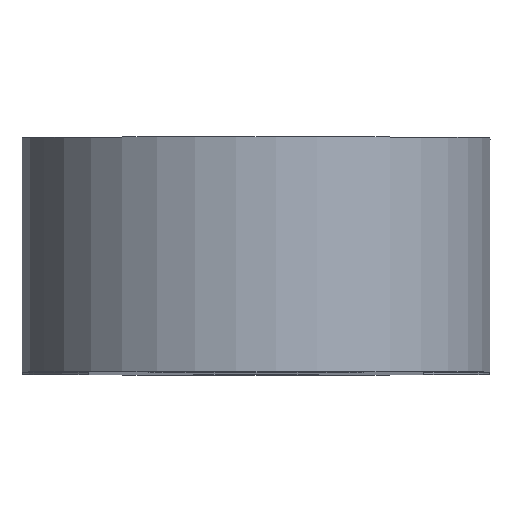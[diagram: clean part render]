
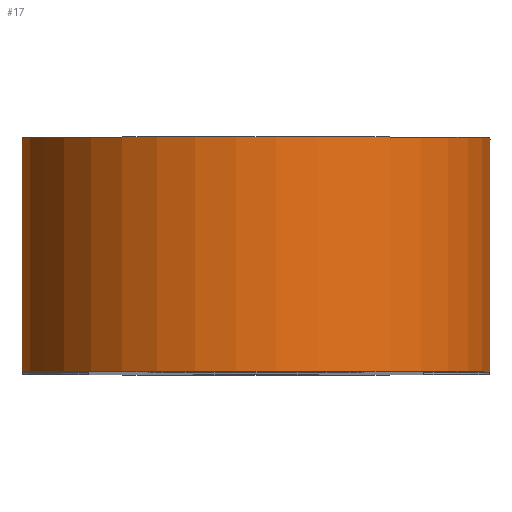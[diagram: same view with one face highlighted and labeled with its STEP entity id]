
A CAD part, top view. The second image highlights one B-rep face of the part: STEP entity #17.
In plain terms, the highlighted cylindrical face has radius 3.5 mm (diameter 7 mm), a partial arc.
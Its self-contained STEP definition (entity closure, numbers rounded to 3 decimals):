
#17 = ADVANCED_FACE('',(#18),#33,.T.);
#18 = FACE_BOUND('',#19,.F.);
#19 = EDGE_LOOP('',(#20,#56,#82,#115));
#20 = ORIENTED_EDGE('',*,*,#21,.F.);
#21 = EDGE_CURVE('',#22,#24,#26,.T.);
#22 = VERTEX_POINT('',#23);
#23 = CARTESIAN_POINT('',(-2.5,-1.75,-2.449));
#24 = VERTEX_POINT('',#25);
#25 = CARTESIAN_POINT('',(2.5,-1.75,-2.449));
#26 = SURFACE_CURVE('',#27,(#32,#44),.PCURVE_S1.);
#27 = CIRCLE('',#28,3.5);
#28 = AXIS2_PLACEMENT_3D('',#29,#30,#31);
#29 = CARTESIAN_POINT('',(0.,-1.75,0.));
#30 = DIRECTION('',(0.,1.,0.));
#31 = DIRECTION('',(-0.714,0.,-0.7));
#32 = PCURVE('',#33,#38);
#33 = CYLINDRICAL_SURFACE('',#34,3.5);
#34 = AXIS2_PLACEMENT_3D('',#35,#36,#37);
#35 = CARTESIAN_POINT('',(0.,-1.75,0.));
#36 = DIRECTION('',(0.,-1.,-0.));
#37 = DIRECTION('',(1.,0.,0.));
#38 = DEFINITIONAL_REPRESENTATION('',(#39),#43);
#39 = LINE('',#40,#41);
#40 = CARTESIAN_POINT('',(-2.366,0.));
#41 = VECTOR('',#42,1.);
#42 = DIRECTION('',(-1.,0.));
#43 = ( GEOMETRIC_REPRESENTATION_CONTEXT(2) 
PARAMETRIC_REPRESENTATION_CONTEXT() REPRESENTATION_CONTEXT('2D SPACE',''
  ) );
#44 = PCURVE('',#45,#50);
#45 = PLANE('',#46);
#46 = AXIS2_PLACEMENT_3D('',#47,#48,#49);
#47 = CARTESIAN_POINT('',(0.,-1.75,0.)
  );
#48 = DIRECTION('',(0.,1.,0.));
#49 = DIRECTION('',(0.,-0.,1.));
#50 = DEFINITIONAL_REPRESENTATION('',(#51),#55);
#51 = CIRCLE('',#52,3.5);
#52 = AXIS2_PLACEMENT_2D('',#53,#54);
#53 = CARTESIAN_POINT('',(0.,0.));
#54 = DIRECTION('',(-0.7,-0.714));
#55 = ( GEOMETRIC_REPRESENTATION_CONTEXT(2) 
PARAMETRIC_REPRESENTATION_CONTEXT() REPRESENTATION_CONTEXT('2D SPACE',''
  ) );
#56 = ORIENTED_EDGE('',*,*,#57,.F.);
#57 = EDGE_CURVE('',#58,#22,#60,.T.);
#58 = VERTEX_POINT('',#59);
#59 = CARTESIAN_POINT('',(-2.5,1.75,-2.449));
#60 = SURFACE_CURVE('',#61,(#65,#71),.PCURVE_S1.);
#61 = LINE('',#62,#63);
#62 = CARTESIAN_POINT('',(-2.5,-1.75,-2.449));
#63 = VECTOR('',#64,1.);
#64 = DIRECTION('',(0.,-1.,-0.));
#65 = PCURVE('',#33,#66);
#66 = DEFINITIONAL_REPRESENTATION('',(#67),#70);
#67 = B_SPLINE_CURVE_WITH_KNOTS('',1,(#68,#69),.UNSPECIFIED.,.F.,.F.,(2,
    2),(-3.5,0.),.PIECEWISE_BEZIER_KNOTS.);
#68 = CARTESIAN_POINT('',(-2.366,-3.5));
#69 = CARTESIAN_POINT('',(-2.366,0.));
#70 = ( GEOMETRIC_REPRESENTATION_CONTEXT(2) 
PARAMETRIC_REPRESENTATION_CONTEXT() REPRESENTATION_CONTEXT('2D SPACE',''
  ) );
#71 = PCURVE('',#72,#77);
#72 = PLANE('',#73);
#73 = AXIS2_PLACEMENT_3D('',#74,#75,#76);
#74 = CARTESIAN_POINT('',(-2.5,-1.75,-22.));
#75 = DIRECTION('',(1.,0.,0.));
#76 = DIRECTION('',(0.,0.,1.));
#77 = DEFINITIONAL_REPRESENTATION('',(#78),#81);
#78 = B_SPLINE_CURVE_WITH_KNOTS('',1,(#79,#80),.UNSPECIFIED.,.F.,.F.,(2,
    2),(-3.5,0.),.PIECEWISE_BEZIER_KNOTS.);
#79 = CARTESIAN_POINT('',(19.551,-3.5));
#80 = CARTESIAN_POINT('',(19.551,0.));
#81 = ( GEOMETRIC_REPRESENTATION_CONTEXT(2) 
PARAMETRIC_REPRESENTATION_CONTEXT() REPRESENTATION_CONTEXT('2D SPACE',''
  ) );
#82 = ORIENTED_EDGE('',*,*,#83,.F.);
#83 = EDGE_CURVE('',#84,#58,#86,.T.);
#84 = VERTEX_POINT('',#85);
#85 = CARTESIAN_POINT('',(2.5,1.75,-2.449));
#86 = SURFACE_CURVE('',#87,(#92,#99),.PCURVE_S1.);
#87 = CIRCLE('',#88,3.5);
#88 = AXIS2_PLACEMENT_3D('',#89,#90,#91);
#89 = CARTESIAN_POINT('',(0.,1.75,0.));
#90 = DIRECTION('',(0.,-1.,0.));
#91 = DIRECTION('',(0.714,0.,-0.7));
#92 = PCURVE('',#33,#93);
#93 = DEFINITIONAL_REPRESENTATION('',(#94),#98);
#94 = LINE('',#95,#96);
#95 = CARTESIAN_POINT('',(-7.058,-3.5));
#96 = VECTOR('',#97,1.);
#97 = DIRECTION('',(1.,-0.));
#98 = ( GEOMETRIC_REPRESENTATION_CONTEXT(2) 
PARAMETRIC_REPRESENTATION_CONTEXT() REPRESENTATION_CONTEXT('2D SPACE',''
  ) );
#99 = PCURVE('',#100,#105);
#100 = PLANE('',#101);
#101 = AXIS2_PLACEMENT_3D('',#102,#103,#104);
#102 = CARTESIAN_POINT('',(0.,1.75,0.)
  );
#103 = DIRECTION('',(0.,1.,0.));
#104 = DIRECTION('',(0.,-0.,1.));
#105 = DEFINITIONAL_REPRESENTATION('',(#106),#114);
#106 = ( BOUNDED_CURVE() B_SPLINE_CURVE(2,(#107,#108,#109,#110,#111,#112
,#113),.UNSPECIFIED.,.T.,.F.) B_SPLINE_CURVE_WITH_KNOTS((1,2,2,2,2,1),(
    -2.094,0.,2.094,4.189,6.283,
8.378),.UNSPECIFIED.) CURVE() GEOMETRIC_REPRESENTATION_ITEM() 
RATIONAL_B_SPLINE_CURVE((1.,0.5,1.,0.5,1.,0.5,1.)) REPRESENTATION_ITEM(
  '') );
#107 = CARTESIAN_POINT('',(-2.449,2.5));
#108 = CARTESIAN_POINT('',(1.881,6.743));
#109 = CARTESIAN_POINT('',(3.39,0.871));
#110 = CARTESIAN_POINT('',(4.899,-5.));
#111 = CARTESIAN_POINT('',(-0.94,-3.371));
#112 = CARTESIAN_POINT('',(-6.78,-1.743));
#113 = CARTESIAN_POINT('',(-2.449,2.5));
#114 = ( GEOMETRIC_REPRESENTATION_CONTEXT(2) 
PARAMETRIC_REPRESENTATION_CONTEXT() REPRESENTATION_CONTEXT('2D SPACE',''
  ) );
#115 = ORIENTED_EDGE('',*,*,#116,.T.);
#116 = EDGE_CURVE('',#84,#24,#117,.T.);
#117 = SURFACE_CURVE('',#118,(#122,#128),.PCURVE_S1.);
#118 = LINE('',#119,#120);
#119 = CARTESIAN_POINT('',(2.5,-1.75,-2.449));
#120 = VECTOR('',#121,1.);
#121 = DIRECTION('',(0.,-1.,-0.));
#122 = PCURVE('',#33,#123);
#123 = DEFINITIONAL_REPRESENTATION('',(#124),#127);
#124 = B_SPLINE_CURVE_WITH_KNOTS('',1,(#125,#126),.UNSPECIFIED.,.F.,.F.,
  (2,2),(-3.5,0.),.PIECEWISE_BEZIER_KNOTS.);
#125 = CARTESIAN_POINT('',(-7.058,-3.5));
#126 = CARTESIAN_POINT('',(-7.058,0.));
#127 = ( GEOMETRIC_REPRESENTATION_CONTEXT(2) 
PARAMETRIC_REPRESENTATION_CONTEXT() REPRESENTATION_CONTEXT('2D SPACE',''
  ) );
#128 = PCURVE('',#129,#134);
#129 = PLANE('',#130);
#130 = AXIS2_PLACEMENT_3D('',#131,#132,#133);
#131 = CARTESIAN_POINT('',(2.5,-1.75,-22.));
#132 = DIRECTION('',(1.,0.,0.));
#133 = DIRECTION('',(0.,0.,1.));
#134 = DEFINITIONAL_REPRESENTATION('',(#135),#138);
#135 = B_SPLINE_CURVE_WITH_KNOTS('',1,(#136,#137),.UNSPECIFIED.,.F.,.F.,
  (2,2),(-3.5,0.),.PIECEWISE_BEZIER_KNOTS.);
#136 = CARTESIAN_POINT('',(19.551,-3.5));
#137 = CARTESIAN_POINT('',(19.551,0.));
#138 = ( GEOMETRIC_REPRESENTATION_CONTEXT(2) 
PARAMETRIC_REPRESENTATION_CONTEXT() REPRESENTATION_CONTEXT('2D SPACE',''
  ) );
